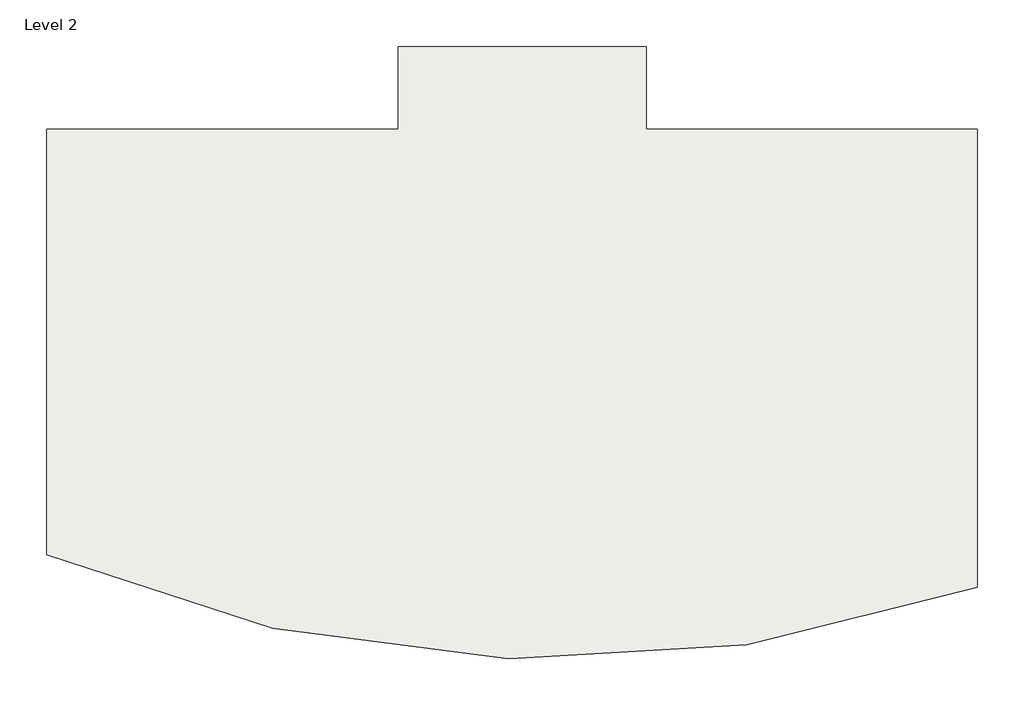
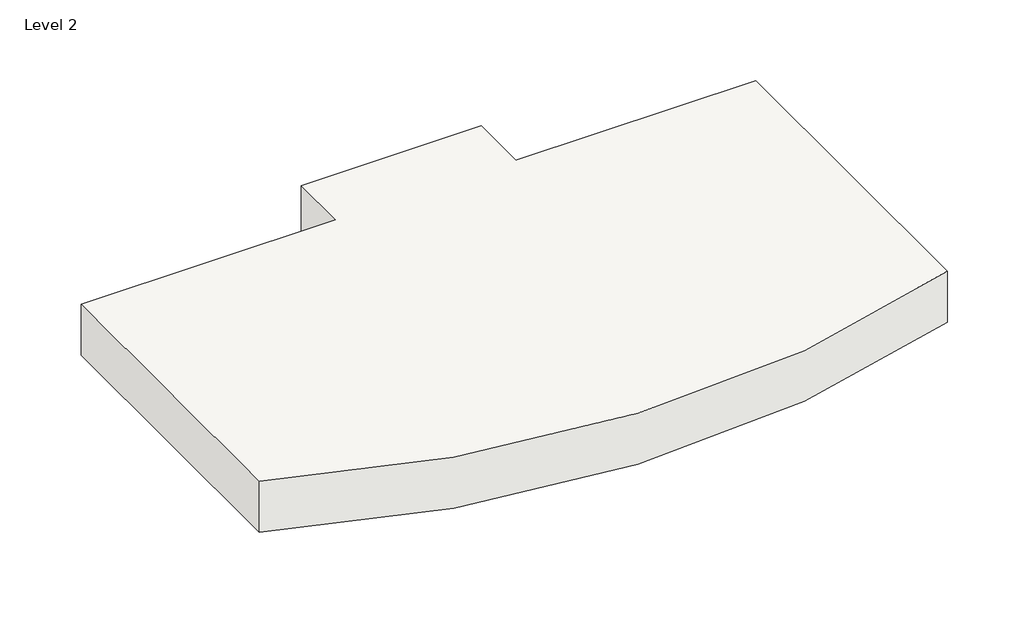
# One storey: 1 slab.
"""IFC4 building model written with IfcOpenShell, lengths in millimetres."""

from ifc_helpers import new_model, si_unit, point, frame, frame_2d, origin, place, context, project, spatial, polyline, circle_curve, trimmed, segment, composite_curve, outline, extrude, element, save

model = new_model("IFC4")

# Units and contexts
model_context = context("Model", 3, world=origin())
ifc_project = project(units=[si_unit("LENGTHUNIT", "METRE", prefix="MILLI")], contexts=[model_context])

# Site, building, storey
site = spatial("IfcSite", under=ifc_project)
building = spatial("IfcBuilding", under=site)
storey = spatial("IfcBuildingStorey", under=building, Name="Level 2", Elevation=3048.0)

# Slab
placement = place(None, origin())
element("IfcSlab", 1, ObjectType="Wood Joist 10\" - Wood Finish", at=placement, inside=storey, context=model_context, shape_type="SweptSolid", body=[
    extrude(outline(composite_curve([segment(polyline([(4279.0576518, 1864.1994253), (4279.0576518, 177.6635469)]), True, "CONTINUOUS"), segment(trimmed(circle_curve(frame_2d((2716.9576518, 4636.8368306)), 4724.8685468), [point((4279.0576518, 177.6635469))], [point((850.0576518, 296.4374049))], False, "CARTESIAN"), True, "CONTINUOUS"), segment(polyline([(850.0576518, 296.4374049), (850.0576518, 1864.1994253), (2145.4576518, 1864.1994253), (2145.4576518, 2168.9994253), (3059.8576518, 2168.9994253), (3059.8576518, 1864.1994253), (4279.0576518, 1864.1994253)]), True, "CONTINUOUS")], self_intersect=False)), frame((0.0, 0.0, 2774.95), z_axis=(0.0, 0.0, 1.0), x_axis=(1.0, 0.0, 0.0)), (0.0, 0.0, 1.0), 273.05),
])

save(model, "model.ifc")
